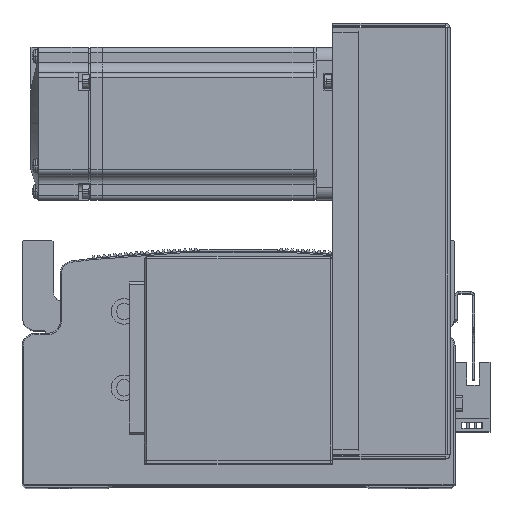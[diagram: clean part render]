
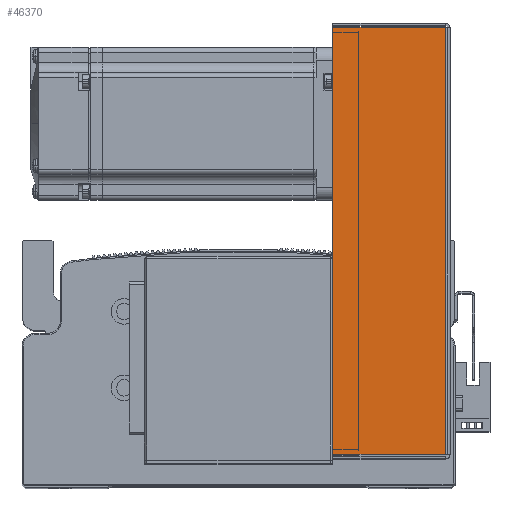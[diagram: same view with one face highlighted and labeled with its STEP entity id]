
A CAD part, top view. The second image highlights one B-rep face of the part: STEP entity #46370.
In plain terms, the highlighted planar face has unit normal (0, 0, 1).
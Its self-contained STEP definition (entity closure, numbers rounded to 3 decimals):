
#273 = ORIENTED_EDGE ( 'NONE', *, *, #14967, .F. ) ;
#597 = EDGE_LOOP ( 'NONE', ( #54652, #54688, #54682, #273 ) ) ;
#10478 = VERTEX_POINT ( 'NONE', #25249 ) ;
#10487 = VERTEX_POINT ( 'NONE', #25261 ) ;
#10498 = VERTEX_POINT ( 'NONE', #25232 ) ;
#10622 = VERTEX_POINT ( 'NONE', #25382 ) ;
#14967 = EDGE_CURVE ( 'NONE', #10622, #10498, #22178, .T. ) ;
#14975 = EDGE_CURVE ( 'NONE', #10487, #10498, #22177, .T. ) ;
#15010 = EDGE_CURVE ( 'NONE', #10478, #10622, #22270, .T. ) ;
#15011 = EDGE_CURVE ( 'NONE', #10478, #10487, #22240, .T. ) ;
#22177 = LINE ( 'NONE', #33000, #22196 ) ;
#22178 = LINE ( 'NONE', #32969, #22191 ) ;
#22191 = VECTOR ( 'NONE', #33025, 1000. ) ;
#22196 = VECTOR ( 'NONE', #33012, 1000. ) ;
#22230 = VECTOR ( 'NONE', #33109, 1000. ) ;
#22240 = LINE ( 'NONE', #33103, #22267 ) ;
#22267 = VECTOR ( 'NONE', #33125, 1000. ) ;
#22270 = LINE ( 'NONE', #33080, #22230 ) ;
#25232 = CARTESIAN_POINT ( 'NONE',  ( -83.793, 45., 40.5 ) ) ;
#25249 = CARTESIAN_POINT ( 'NONE',  ( 83.793, 0.737, 40.5 ) ) ;
#25261 = CARTESIAN_POINT ( 'NONE',  ( 83.793, 45., 40.5 ) ) ;
#25382 = CARTESIAN_POINT ( 'NONE',  ( -83.793, 0.737, 40.5 ) ) ;
#30611 = FACE_OUTER_BOUND ( 'NONE', #597, .T. ) ;
#32969 = CARTESIAN_POINT ( 'NONE',  ( -83.793, 0., 40.5 ) ) ;
#33000 = CARTESIAN_POINT ( 'NONE',  ( -84.5, 45., 40.5 ) ) ;
#33012 = DIRECTION ( 'NONE',  ( -1., 0., 0. ) ) ;
#33025 = DIRECTION ( 'NONE',  ( 0., 1., 0. ) ) ;
#33080 = CARTESIAN_POINT ( 'NONE',  ( 0., 0.737, 40.5 ) ) ;
#33103 = CARTESIAN_POINT ( 'NONE',  ( 83.793, 0., 40.5 ) ) ;
#33109 = DIRECTION ( 'NONE',  ( -1., 0., 0. ) ) ;
#33125 = DIRECTION ( 'NONE',  ( 0., 1., 0. ) ) ;
#37328 = AXIS2_PLACEMENT_3D ( 'NONE', #39508, #39506, #39558 ) ;
#39506 = DIRECTION ( 'NONE',  ( 0., 0., -1. ) ) ;
#39508 = CARTESIAN_POINT ( 'NONE',  ( 0., 0., 40.5 ) ) ;
#39558 = DIRECTION ( 'NONE',  ( -1., 0., 0. ) ) ;
#39586 = PLANE ( 'NONE',  #37328 ) ;
#46370 = ADVANCED_FACE ( 'NONE', ( #30611 ), #39586, .F. ) ;
#54652 = ORIENTED_EDGE ( 'NONE', *, *, #15010, .F. ) ;
#54682 = ORIENTED_EDGE ( 'NONE', *, *, #14975, .T. ) ;
#54688 = ORIENTED_EDGE ( 'NONE', *, *, #15011, .T. ) ;
